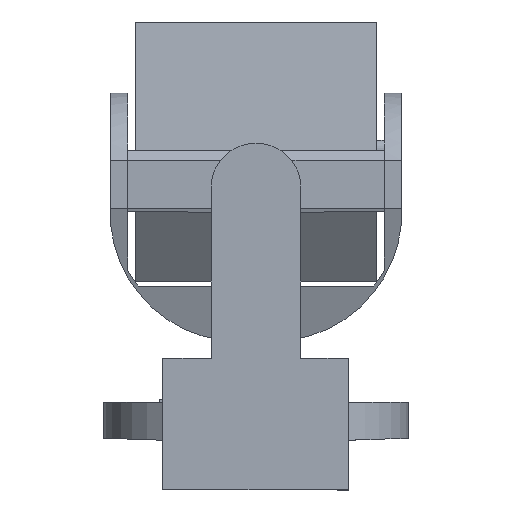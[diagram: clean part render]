
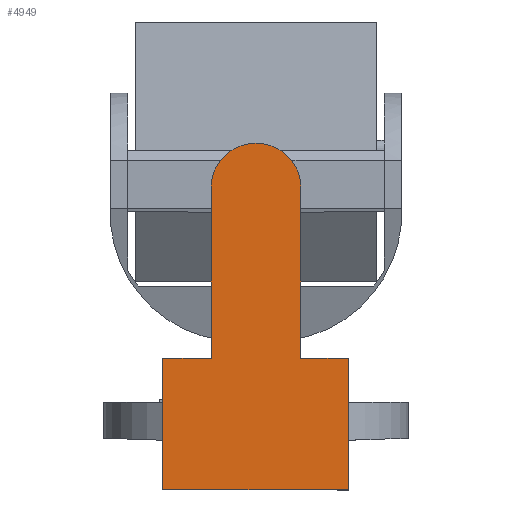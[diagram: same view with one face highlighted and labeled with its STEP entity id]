
A CAD part, left-side view. The second image highlights one B-rep face of the part: STEP entity #4949.
In plain terms, the highlighted planar face has unit normal (-1, 0, 0).
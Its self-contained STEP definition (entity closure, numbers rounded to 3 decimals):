
#262=LINE('',#7444,#799);
#263=LINE('',#7448,#800);
#264=LINE('',#7450,#801);
#265=LINE('',#7452,#802);
#266=LINE('',#7454,#803);
#267=LINE('',#7456,#804);
#268=LINE('',#7457,#805);
#799=VECTOR('',#5949,10.);
#800=VECTOR('',#5952,10.);
#801=VECTOR('',#5953,10.);
#802=VECTOR('',#5954,10.);
#803=VECTOR('',#5955,10.);
#804=VECTOR('',#5956,10.);
#805=VECTOR('',#5957,10.);
#1408=FACE_OUTER_BOUND('',#1690,.T.);
#1690=EDGE_LOOP('',(#3391,#3392,#3393,#3394,#3395,#3396,#3397,#3398));
#2020=CIRCLE('',#5375,33.349);
#2164=VERTEX_POINT('',#7442);
#2165=VERTEX_POINT('',#7443);
#2166=VERTEX_POINT('',#7445);
#2167=VERTEX_POINT('',#7447);
#2168=VERTEX_POINT('',#7449);
#2169=VERTEX_POINT('',#7451);
#2170=VERTEX_POINT('',#7453);
#2171=VERTEX_POINT('',#7455);
#2650=EDGE_CURVE('',#2164,#2165,#262,.T.);
#2651=EDGE_CURVE('',#2166,#2165,#2020,.T.);
#2652=EDGE_CURVE('',#2167,#2166,#263,.T.);
#2653=EDGE_CURVE('',#2168,#2167,#264,.T.);
#2654=EDGE_CURVE('',#2168,#2169,#265,.T.);
#2655=EDGE_CURVE('',#2170,#2169,#266,.T.);
#2656=EDGE_CURVE('',#2170,#2171,#267,.T.);
#2657=EDGE_CURVE('',#2171,#2164,#268,.T.);
#3391=ORIENTED_EDGE('',*,*,#2650,.T.);
#3392=ORIENTED_EDGE('',*,*,#2651,.F.);
#3393=ORIENTED_EDGE('',*,*,#2652,.F.);
#3394=ORIENTED_EDGE('',*,*,#2653,.F.);
#3395=ORIENTED_EDGE('',*,*,#2654,.T.);
#3396=ORIENTED_EDGE('',*,*,#2655,.F.);
#3397=ORIENTED_EDGE('',*,*,#2656,.T.);
#3398=ORIENTED_EDGE('',*,*,#2657,.T.);
#4738=PLANE('',#5374);
#4949=ADVANCED_FACE('',(#1408),#4738,.T.);
#5374=AXIS2_PLACEMENT_3D('',#7441,#5947,#5948);
#5375=AXIS2_PLACEMENT_3D('',#7446,#5950,#5951);
#5947=DIRECTION('center_axis',(-1.,0.,0.));
#5948=DIRECTION('ref_axis',(0.,0.,-1.));
#5949=DIRECTION('',(0.,0.,1.));
#5950=DIRECTION('center_axis',(1.,0.,0.));
#5951=DIRECTION('ref_axis',(0.,0.785,0.619));
#5952=DIRECTION('',(0.,0.,1.));
#5953=DIRECTION('',(0.,-1.,0.));
#5954=DIRECTION('',(0.,0.,-1.));
#5955=DIRECTION('',(0.,1.,0.));
#5956=DIRECTION('',(0.,0.,1.));
#5957=DIRECTION('',(0.,1.,0.));
#7441=CARTESIAN_POINT('Origin',(-499.5,0.,238.274));
#7442=CARTESIAN_POINT('',(-499.5,-33.098,79.));
#7443=CARTESIAN_POINT('',(-499.5,-33.098,200.921));
#7444=CARTESIAN_POINT('',(-499.5,-33.098,188.798));
#7445=CARTESIAN_POINT('',(-499.5,33.098,200.921));
#7446=CARTESIAN_POINT('Origin',(-499.5,0.,205.));
#7447=CARTESIAN_POINT('',(-499.5,33.098,79.));
#7448=CARTESIAN_POINT('',(-499.5,33.098,188.798));
#7449=CARTESIAN_POINT('',(-499.5,69.,79.));
#7450=CARTESIAN_POINT('',(-499.5,58.781,79.));
#7451=CARTESIAN_POINT('',(-499.5,69.,-18.5));
#7452=CARTESIAN_POINT('',(-499.5,69.,119.137));
#7453=CARTESIAN_POINT('',(-499.5,-68.283,-18.5));
#7454=CARTESIAN_POINT('',(-499.5,0.,-18.5));
#7455=CARTESIAN_POINT('',(-499.5,-68.283,79.));
#7456=CARTESIAN_POINT('',(-499.5,-68.283,119.137));
#7457=CARTESIAN_POINT('',(-499.5,-58.781,79.));
